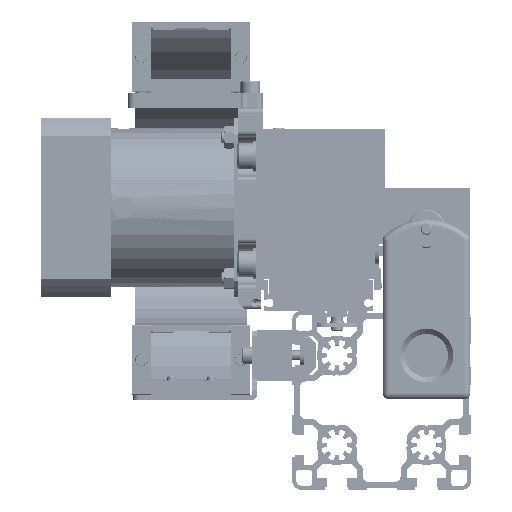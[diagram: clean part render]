
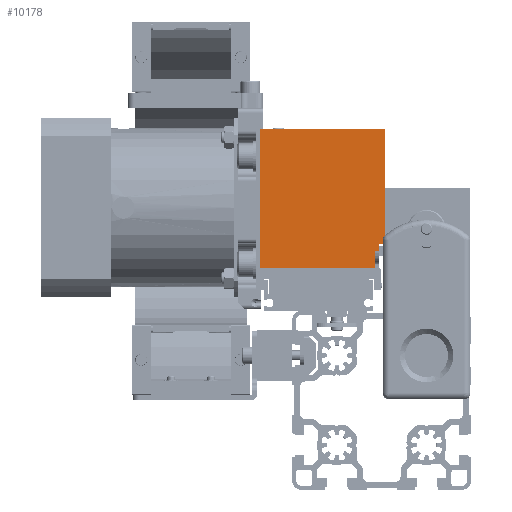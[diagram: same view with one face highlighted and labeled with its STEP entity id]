
A CAD part, front view. The second image highlights one B-rep face of the part: STEP entity #10178.
In plain terms, the highlighted planar face has unit normal (0, -1, 0) as drawn and (1, 0, 0) by its records, which use the part's own axes.
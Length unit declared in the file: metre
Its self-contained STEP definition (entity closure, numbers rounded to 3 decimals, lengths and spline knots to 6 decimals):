
#10178 = ADVANCED_FACE( '', ( #19569 ), #19570, .F. );
#19569 = FACE_OUTER_BOUND( '', #28933, .T. );
#19570 = PLANE( '', #28934 );
#28933 = EDGE_LOOP( '', ( #51479, #51480, #51481, #51482, #51483, #51484, #51485, #51486, #51487, #51488 ) );
#28934 = AXIS2_PLACEMENT_3D( '', #51489, #51490, #51491 );
#51479 = ORIENTED_EDGE( '', *, *, #54806, .F. );
#51480 = ORIENTED_EDGE( '', *, *, #61021, .T. );
#51481 = ORIENTED_EDGE( '', *, *, #60934, .F. );
#51482 = ORIENTED_EDGE( '', *, *, #55665, .T. );
#51483 = ORIENTED_EDGE( '', *, *, #56327, .T. );
#51484 = ORIENTED_EDGE( '', *, *, #55435, .F. );
#51485 = ORIENTED_EDGE( '', *, *, #59366, .F. );
#51486 = ORIENTED_EDGE( '', *, *, #60513, .T. );
#51487 = ORIENTED_EDGE( '', *, *, #57395, .F. );
#51488 = ORIENTED_EDGE( '', *, *, #57033, .F. );
#51489 = CARTESIAN_POINT( '', ( 0.125, -0.030683, 0.07519 ) );
#51490 = DIRECTION( '', ( -1., 0., 0. ) );
#51491 = DIRECTION( '', ( 0., 0., -1. ) );
#54806 = EDGE_CURVE( '', #65772, #65774, #65775, .T. );
#55435 = EDGE_CURVE( '', #66839, #66841, #66842, .T. );
#55665 = EDGE_CURVE( '', #67211, #67209, #67212, .T. );
#56327 = EDGE_CURVE( '', #67209, #66841, #68274, .T. );
#57033 = EDGE_CURVE( '', #65774, #69358, #69362, .T. );
#57395 = EDGE_CURVE( '', #69358, #69925, #69926, .T. );
#59366 = EDGE_CURVE( '', #72772, #66839, #72774, .T. );
#60513 = EDGE_CURVE( '', #72772, #69925, #74260, .T. );
#60934 = EDGE_CURVE( '', #67211, #74731, #74732, .T. );
#61021 = EDGE_CURVE( '', #65772, #74731, #74831, .T. );
#65772 = VERTEX_POINT( '', #80881 );
#65774 = VERTEX_POINT( '', #80883 );
#65775 = LINE( '', #80884, #80885 );
#66839 = VERTEX_POINT( '', #82586 );
#66841 = VERTEX_POINT( '', #82589 );
#66842 = LINE( '', #82590, #82591 );
#67209 = VERTEX_POINT( '', #83114 );
#67211 = VERTEX_POINT( '', #83117 );
#67212 = LINE( '', #83118, #83119 );
#68274 = LINE( '', #84763, #84764 );
#69358 = VERTEX_POINT( '', #86541 );
#69362 = LINE( '', #86547, #86548 );
#69925 = VERTEX_POINT( '', #87548 );
#69926 = LINE( '', #87549, #87550 );
#72772 = VERTEX_POINT( '', #91714 );
#72774 = LINE( '', #91716, #91717 );
#74260 = LINE( '', #94075, #94076 );
#74731 = VERTEX_POINT( '', #94773 );
#74732 = LINE( '', #94774, #94775 );
#74831 = LINE( '', #94903, #94904 );
#80881 = CARTESIAN_POINT( '', ( 0.125, 0.025349, 0.014033 ) );
#80883 = CARTESIAN_POINT( '', ( 0.125, 0.025349, 0.003683 ) );
#80884 = CARTESIAN_POINT( '', ( 0.125, 0.025349, 0.007683 ) );
#80885 = VECTOR( '', #98781, 1. );
#82586 = CARTESIAN_POINT( '', ( 0.125, -0.031953, 0.07519 ) );
#82589 = CARTESIAN_POINT( '', ( 0.125, 0.030683, 0.07519 ) );
#82590 = CARTESIAN_POINT( '', ( 0.125, -0.030683, 0.07519 ) );
#82591 = VECTOR( '', #99528, 1. );
#83114 = CARTESIAN_POINT( '', ( 0.125, 0.030683, 0.017526 ) );
#83117 = CARTESIAN_POINT( '', ( 0.125, 0.027381, 0.017526 ) );
#83118 = CARTESIAN_POINT( '', ( 0.125, 0.027381, 0.017526 ) );
#83119 = VECTOR( '', #99790, 1. );
#84763 = CARTESIAN_POINT( '', ( 0.125, 0.030683, 0.07519 ) );
#84764 = VECTOR( '', #100602, 1. );
#86541 = CARTESIAN_POINT( '', ( 0.125, 0.027381, 0.003683 ) );
#86547 = CARTESIAN_POINT( '', ( 0.125, 0.025349, 0.003683 ) );
#86548 = VECTOR( '', #101405, 1. );
#87548 = CARTESIAN_POINT( '', ( 0.125, 0.027381, 0.000889 ) );
#87549 = CARTESIAN_POINT( '', ( 0.125, 0.027381, 0.000635 ) );
#87550 = VECTOR( '', #101805, 1. );
#91714 = CARTESIAN_POINT( '', ( 0.125, -0.031953, 0.000889 ) );
#91716 = CARTESIAN_POINT( '', ( 0.125, -0.031953, 0.07519 ) );
#91717 = VECTOR( '', #104276, 1. );
#94075 = CARTESIAN_POINT( '', ( 0.125, -0.030683, 0.000889 ) );
#94076 = VECTOR( '', #105659, 1. );
#94773 = CARTESIAN_POINT( '', ( 0.125, 0.027381, 0.014033 ) );
#94774 = CARTESIAN_POINT( '', ( 0.125, 0.027381, 0.000635 ) );
#94775 = VECTOR( '', #105954, 1. );
#94903 = CARTESIAN_POINT( '', ( 0.125, -0.030683, 0.014033 ) );
#94904 = VECTOR( '', #106044, 1. );
#98781 = DIRECTION( '', ( 0., 0., -1. ) );
#99528 = DIRECTION( '', ( 0., 1., 0. ) );
#99790 = DIRECTION( '', ( 0., 1., 0. ) );
#100602 = DIRECTION( '', ( 0., 0., 1. ) );
#101405 = DIRECTION( '', ( 0., 1., 0. ) );
#101805 = DIRECTION( '', ( 0., 0., -1. ) );
#104276 = DIRECTION( '', ( 0., 0., 1. ) );
#105659 = DIRECTION( '', ( 0., 1., 0. ) );
#105954 = DIRECTION( '', ( 0., 0., -1. ) );
#106044 = DIRECTION( '', ( 0., 1., 0. ) );
